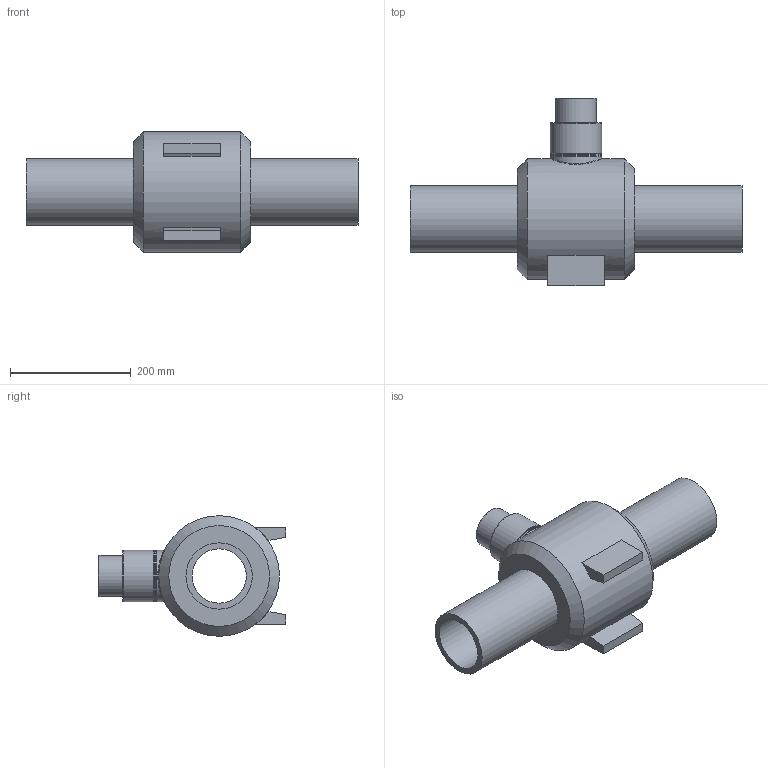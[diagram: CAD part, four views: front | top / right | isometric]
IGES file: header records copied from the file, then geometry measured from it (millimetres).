
Global section: file name: 436207110.ipt; native system: Autodesk Inventor 2015; preprocessor: unknown; author: Кирилл,,11,0; organization: 20170828.110610; date: 20171106.093342; units: millimetre
Bounding box: 550 x 310 x 200 mm (x, y, z)
Volume: 5062520.8 mm3; surface area: 511481 mm2
Topology: 1 solids, 1 shells, 33 faces, 81 edges, 54 vertices
Faces by surface type: plane 16, cylinder 7, cone 4, revolution 4, bspline 2
Full cylindrical faces by diameter (mm): 68 x1, 85 x3, 110 x2, 200 x1
